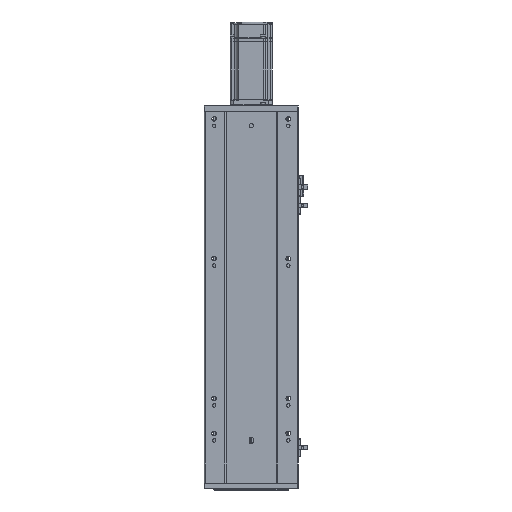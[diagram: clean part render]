
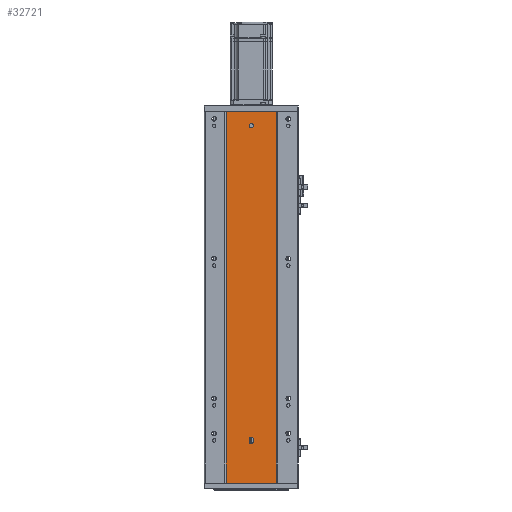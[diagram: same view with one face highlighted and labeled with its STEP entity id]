
A CAD part, front view. The second image highlights one B-rep face of the part: STEP entity #32721.
In plain terms, the highlighted planar face has unit normal (0, -1, 0).
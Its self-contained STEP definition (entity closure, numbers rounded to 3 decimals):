
#80 = ORIENTED_EDGE ( 'NONE', *, *, #44070, .T. ) ;
#2025 = VECTOR ( 'NONE', #10187, 1000. ) ;
#2686 = VERTEX_POINT ( 'NONE', #56607 ) ;
#2717 = FACE_BOUND ( 'NONE', #33093, .T. ) ;
#3154 = CARTESIAN_POINT ( 'NONE',  ( 99.005, 78.746, 531. ) ) ;
#4074 = ORIENTED_EDGE ( 'NONE', *, *, #29993, .F. ) ;
#4333 = FACE_OUTER_BOUND ( 'NONE', #40440, .T. ) ;
#4809 = DIRECTION ( 'NONE',  ( 1., 0., 0. ) ) ;
#5105 = LINE ( 'NONE', #52027, #26756 ) ;
#5906 = CARTESIAN_POINT ( 'NONE',  ( 134.505, 78.746, 59.5 ) ) ;
#6377 = DIRECTION ( 'NONE',  ( 1., 0., 0. ) ) ;
#6821 = CIRCLE ( 'NONE', #11975, 3. ) ;
#8828 = LINE ( 'NONE', #33141, #59934 ) ;
#9038 = AXIS2_PLACEMENT_3D ( 'NONE', #16675, #11534, #6377 ) ;
#10187 = DIRECTION ( 'NONE',  ( -1., 0., 0. ) ) ;
#10341 = CARTESIAN_POINT ( 'NONE',  ( 99.005, 78.746, 531. ) ) ;
#10845 = EDGE_CURVE ( 'NONE', #65899, #58943, #61081, .T. ) ;
#11534 = DIRECTION ( 'NONE',  ( 0., -1., 0. ) ) ;
#11975 = AXIS2_PLACEMENT_3D ( 'NONE', #42785, #22587, #52642 ) ;
#12580 = EDGE_CURVE ( 'NONE', #42323, #25590, #54459, .T. ) ;
#12776 = ORIENTED_EDGE ( 'NONE', *, *, #12580, .F. ) ;
#14156 = CIRCLE ( 'NONE', #44098, 3. ) ;
#14817 = CIRCLE ( 'NONE', #25971, 3. ) ;
#15545 = DIRECTION ( 'NONE',  ( 0., -1., 0. ) ) ;
#16135 = EDGE_CURVE ( 'NONE', #58943, #51143, #24464, .T. ) ;
#16589 = CARTESIAN_POINT ( 'NONE',  ( 170.005, 78.746, 531. ) ) ;
#16675 = CARTESIAN_POINT ( 'NONE',  ( 134.505, 78.746, 62.5 ) ) ;
#16849 = EDGE_CURVE ( 'NONE', #65899, #18495, #5105, .T. ) ;
#18495 = VERTEX_POINT ( 'NONE', #10341 ) ;
#20040 = ORIENTED_EDGE ( 'NONE', *, *, #10845, .F. ) ;
#20392 = EDGE_LOOP ( 'NONE', ( #4074, #34485 ) ) ;
#20740 = CARTESIAN_POINT ( 'NONE',  ( 0., 78.746, 0. ) ) ;
#21958 = DIRECTION ( 'NONE',  ( -1., 0., 0. ) ) ;
#22449 = ORIENTED_EDGE ( 'NONE', *, *, #16849, .T. ) ;
#22458 = ORIENTED_EDGE ( 'NONE', *, *, #41267, .F. ) ;
#22587 = DIRECTION ( 'NONE',  ( 0., -1., 0. ) ) ;
#23848 = EDGE_CURVE ( 'NONE', #35226, #37689, #6821, .T. ) ;
#24464 = LINE ( 'NONE', #20740, #2025 ) ;
#25590 = VERTEX_POINT ( 'NONE', #51236 ) ;
#25971 = AXIS2_PLACEMENT_3D ( 'NONE', #53717, #63336, #58407 ) ;
#26091 = ORIENTED_EDGE ( 'NONE', *, *, #16135, .F. ) ;
#26756 = VECTOR ( 'NONE', #21958, 1000. ) ;
#26793 = CARTESIAN_POINT ( 'NONE',  ( 170.005, 78.746, 531. ) ) ;
#27442 = CIRCLE ( 'NONE', #9038, 3. ) ;
#29065 = AXIS2_PLACEMENT_3D ( 'NONE', #35850, #35401, #4809 ) ;
#29993 = EDGE_CURVE ( 'NONE', #37689, #35226, #14817, .T. ) ;
#30314 = CARTESIAN_POINT ( 'NONE',  ( 134.505, 78.746, 514. ) ) ;
#30413 = ORIENTED_EDGE ( 'NONE', *, *, #35519, .F. ) ;
#30557 = VERTEX_POINT ( 'NONE', #44026 ) ;
#32000 = CARTESIAN_POINT ( 'NONE',  ( 134.505, 78.746, 508. ) ) ;
#32721 = ADVANCED_FACE ( 'NONE', ( #2717, #54653, #4333 ), #40937, .T. ) ;
#33093 = EDGE_LOOP ( 'NONE', ( #55525, #30413, #22458, #12776 ) ) ;
#33141 = CARTESIAN_POINT ( 'NONE',  ( 137.505, 78.746, 62.5 ) ) ;
#34485 = ORIENTED_EDGE ( 'NONE', *, *, #23848, .F. ) ;
#35226 = VERTEX_POINT ( 'NONE', #30314 ) ;
#35401 = DIRECTION ( 'NONE',  ( 0., -1., 0. ) ) ;
#35519 = EDGE_CURVE ( 'NONE', #2686, #30557, #8828, .T. ) ;
#35850 = CARTESIAN_POINT ( 'NONE',  ( 0., 78.746, 531. ) ) ;
#36848 = CARTESIAN_POINT ( 'NONE',  ( 131.505, 78.746, 62.5 ) ) ;
#37689 = VERTEX_POINT ( 'NONE', #32000 ) ;
#38644 = DIRECTION ( 'NONE',  ( 0., 0., -1. ) ) ;
#40440 = EDGE_LOOP ( 'NONE', ( #26091, #20040, #22449, #80 ) ) ;
#40937 = PLANE ( 'NONE',  #29065 ) ;
#41267 = EDGE_CURVE ( 'NONE', #25590, #2686, #14156, .T. ) ;
#42323 = VERTEX_POINT ( 'NONE', #36848 ) ;
#42785 = CARTESIAN_POINT ( 'NONE',  ( 134.505, 78.746, 511. ) ) ;
#43401 = DIRECTION ( 'NONE',  ( 0., 0., 1. ) ) ;
#44026 = CARTESIAN_POINT ( 'NONE',  ( 137.505, 78.746, 62.5 ) ) ;
#44069 = VECTOR ( 'NONE', #64820, 1000. ) ;
#44070 = EDGE_CURVE ( 'NONE', #18495, #51143, #64488, .T. ) ;
#44098 = AXIS2_PLACEMENT_3D ( 'NONE', #5906, #15545, #56795 ) ;
#44409 = VECTOR ( 'NONE', #38644, 1000. ) ;
#47319 = CARTESIAN_POINT ( 'NONE',  ( 170.005, 78.746, 0. ) ) ;
#49811 = EDGE_CURVE ( 'NONE', #30557, #42323, #27442, .T. ) ;
#51143 = VERTEX_POINT ( 'NONE', #54546 ) ;
#51236 = CARTESIAN_POINT ( 'NONE',  ( 131.505, 78.746, 59.5 ) ) ;
#52027 = CARTESIAN_POINT ( 'NONE',  ( 0., 78.746, 531. ) ) ;
#52381 = DIRECTION ( 'NONE',  ( 0., 0., -1. ) ) ;
#52642 = DIRECTION ( 'NONE',  ( 1., 0., 0. ) ) ;
#53717 = CARTESIAN_POINT ( 'NONE',  ( 134.505, 78.746, 511. ) ) ;
#54459 = LINE ( 'NONE', #54517, #44069 ) ;
#54517 = CARTESIAN_POINT ( 'NONE',  ( 131.505, 78.746, 62.5 ) ) ;
#54546 = CARTESIAN_POINT ( 'NONE',  ( 99.005, 78.746, 0. ) ) ;
#54653 = FACE_BOUND ( 'NONE', #20392, .T. ) ;
#55525 = ORIENTED_EDGE ( 'NONE', *, *, #49811, .F. ) ;
#56607 = CARTESIAN_POINT ( 'NONE',  ( 137.505, 78.746, 59.5 ) ) ;
#56795 = DIRECTION ( 'NONE',  ( 1., 0., 0. ) ) ;
#58407 = DIRECTION ( 'NONE',  ( 1., 0., 0. ) ) ;
#58943 = VERTEX_POINT ( 'NONE', #47319 ) ;
#59934 = VECTOR ( 'NONE', #43401, 1000. ) ;
#61081 = LINE ( 'NONE', #26793, #65902 ) ;
#63336 = DIRECTION ( 'NONE',  ( 0., -1., 0. ) ) ;
#64488 = LINE ( 'NONE', #3154, #44409 ) ;
#64820 = DIRECTION ( 'NONE',  ( 0., 0., -1. ) ) ;
#65899 = VERTEX_POINT ( 'NONE', #16589 ) ;
#65902 = VECTOR ( 'NONE', #52381, 1000. ) ;
